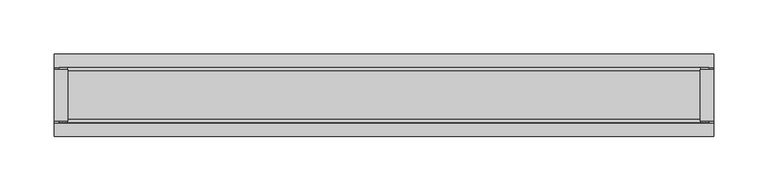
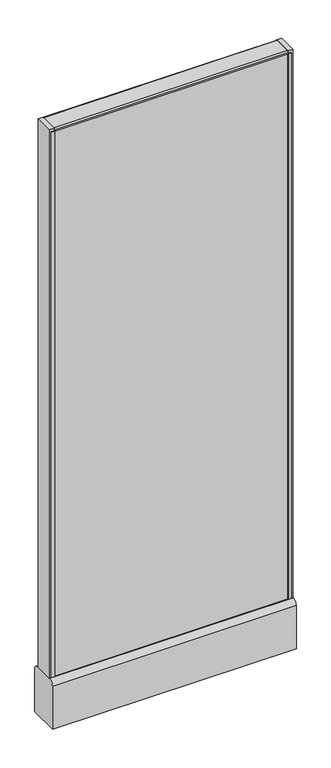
"""IFC4 building model written with IfcOpenShell, lengths in millimetres: furniture geometry."""

import ifcopenshell
import ifcopenshell.guid

model = None  # the IFC model being written
_history = None  # IfcOwnerHistory: only IFC2X3 demands one
_inside = {}  # id of a spatial element -> (the spatial element, [elements in it])
_under = {}  # id of a project, library or spatial element -> (it, [spatial elements below it])
_declared = {}  # id of a project -> (the project, [libraries it declares])
_typed = {}  # id of a type object -> (the type object, [elements of that type])
_made_of = {}  # id of a material, layer set ... -> (it, [elements and type objects made of it])


def new_model(schema):
    """Start an empty IFC model of exactly this schema.

    Asked for "IFC4X3", IfcOpenShell would pick the latest addendum, in which some entities
    have other attributes; the version numbers below select the first issue.
    IFC2X3 requires an IfcOwnerHistory on every rooted entity: one is made here for all.
    """
    global model, _history
    if schema == "IFC4X3":
        model = ifcopenshell.file(schema_version=(4, 3, 0, 0))
    else:
        model = ifcopenshell.file(schema=schema)
    _inside.clear()
    _under.clear()
    _declared.clear()
    _typed.clear()
    _made_of.clear()
    _history = None
    if model.schema == "IFC2X3":
        org = make("IfcOrganization", Name="unknown")
        user = make(
            "IfcPersonAndOrganization",
            ThePerson=make("IfcPerson", FamilyName="unknown"),
            TheOrganization=org,
        )
        app = make(
            "IfcApplication",
            ApplicationDeveloper=org,
            Version="unknown",
            ApplicationFullName="unknown",
            ApplicationIdentifier="unknown",
        )
        _history = make(
            "IfcOwnerHistory",
            OwningUser=user,
            OwningApplication=app,
            ChangeAction="ADDED",
            CreationDate=0,
        )
    return model


def make(cls, **values):
    """One entity of the class cls with the attributes given. An attribute that is None is left unset."""
    return model.create_entity(
        cls, **{name: value for name, value in values.items() if value is not None}
    )


def rooted(cls, **values):
    """An entity with a GlobalId (a new one), such as an element, a storey or a relation."""
    return make(cls, GlobalId=ifcopenshell.guid.new(), OwnerHistory=_history, **values)


def si_unit(unit_type, name, prefix=None):
    """IfcSIUnit, for example si_unit("LENGTHUNIT", "METRE", prefix="MILLI")."""
    return make("IfcSIUnit", UnitType=unit_type, Prefix=prefix, Name=name)


def assignment(units):
    """IfcUnitAssignment: the units of a project."""
    return None if units is None else make("IfcUnitAssignment", Units=units)


def point(xyz):
    """IfcCartesianPoint."""
    return None if xyz is None else make("IfcCartesianPoint", Coordinates=xyz)


def direction(xyz):
    """IfcDirection."""
    return None if xyz is None else make("IfcDirection", DirectionRatios=xyz)


def frame(location, z_axis=None, x_axis=None):
    """IfcAxis2Placement3D, a coordinate frame: its origin and axes. An axis left out is left unset."""
    return make(
        "IfcAxis2Placement3D",
        Location=point(location),
        Axis=direction(z_axis),
        RefDirection=direction(x_axis),
    )


def frame_2d(location, x_axis=None):
    """IfcAxis2Placement2D, a coordinate frame in the plane: its origin and x axis."""
    return make(
        "IfcAxis2Placement2D", Location=point(location), RefDirection=direction(x_axis)
    )


def origin():
    """The frame at (0, 0, 0) with its axes left unset."""
    return frame((0.0, 0.0, 0.0))


def place(relative_to, where):
    """IfcLocalPlacement: puts the frame where relative to a parent placement (None: the world)."""
    return make(
        "IfcLocalPlacement", PlacementRelTo=relative_to, RelativePlacement=where
    )


def context(
    kind, dimensions, precision=None, world=None, true_north=None, identifier=None
):
    """IfcGeometricRepresentationContext, for example the 3D "Model" context."""
    return make(
        "IfcGeometricRepresentationContext",
        ContextIdentifier=identifier,
        ContextType=kind,
        CoordinateSpaceDimension=dimensions,
        Precision=precision,
        WorldCoordinateSystem=world,
        TrueNorth=true_north,
    )


def project(units=None, contexts=None):
    """IfcProject with its units and contexts."""
    return rooted(
        "IfcProject",
        Name="project",
        RepresentationContexts=contexts,
        UnitsInContext=assignment(units),
    )


def spatial(cls, under=None, at=None, **own):
    """A site, building, storey or space (cls), placed at a placement, below another one or the project."""
    s = rooted(cls, ObjectPlacement=at, **own)
    if under is not None:
        _under.setdefault(under.id(), (under, []))[1].append(s)
    return s


def polyline(points):
    """IfcPolyline through the points."""
    return make("IfcPolyline", Points=[point(p) for p in points])


def circle_curve(where, radius):
    """IfcCircle in the frame where."""
    return make("IfcCircle", Position=where, Radius=radius)


def trimmed(basis, trim1, trim2, sense, master):
    """IfcTrimmedCurve: the piece of a basis curve between two trims."""
    return make(
        "IfcTrimmedCurve",
        BasisCurve=basis,
        Trim1=trim1,
        Trim2=trim2,
        SenseAgreement=sense,
        MasterRepresentation=master,
    )


def segment(curve, same_sense, transition):
    """IfcCompositeCurveSegment."""
    return make(
        "IfcCompositeCurveSegment",
        Transition=transition,
        SameSense=same_sense,
        ParentCurve=curve,
    )


def composite_curve(segments, self_intersect=None):
    """IfcCompositeCurve: segments joined end to end."""
    return make("IfcCompositeCurve", Segments=segments, SelfIntersect=self_intersect)


def outline(outer, holes=None, kind="AREA"):
    """IfcArbitraryClosedProfileDef: a profile drawn as a closed curve; with holes, ...WithVoids."""
    if holes is None:
        return make("IfcArbitraryClosedProfileDef", ProfileType=kind, OuterCurve=outer)
    return make(
        "IfcArbitraryProfileDefWithVoids",
        ProfileType=kind,
        OuterCurve=outer,
        InnerCurves=holes,
    )


def extrude(swept, where, along, depth):
    """IfcExtrudedAreaSolid: the profile swept, set in the frame where, extruded along a direction by depth."""
    return make(
        "IfcExtrudedAreaSolid",
        SweptArea=swept,
        Position=where,
        ExtrudedDirection=direction(along),
        Depth=depth,
    )


def shape(context_of_items, identifier, shape_type, items):
    """IfcShapeRepresentation: the items that make up one representation, for example the "Body"."""
    return make(
        "IfcShapeRepresentation",
        ContextOfItems=context_of_items,
        RepresentationIdentifier=identifier,
        RepresentationType=shape_type,
        Items=items,
    )


def source(mapping_origin, context_of_items, identifier, shape_type, items):
    """IfcRepresentationMap: a shape defined once, which mapped items show again and again."""
    return make(
        "IfcRepresentationMap",
        MappingOrigin=mapping_origin,
        MappedRepresentation=shape(context_of_items, identifier, shape_type, items),
    )


def transform(
    local_origin,
    x_axis=None,
    y_axis=None,
    z_axis=None,
    scale=None,
    scale2=None,
    scale3=None,
    uniform=True,
):
    """IfcCartesianTransformationOperator3D, or its non-uniform kind. x_axis, y_axis, z_axis: its Axis1, 2, 3."""
    if uniform:
        return make(
            "IfcCartesianTransformationOperator3D",
            Axis1=direction(x_axis),
            Axis2=direction(y_axis),
            LocalOrigin=point(local_origin),
            Scale=scale,
            Axis3=direction(z_axis),
        )
    return make(
        "IfcCartesianTransformationOperator3DnonUniform",
        Axis1=direction(x_axis),
        Axis2=direction(y_axis),
        LocalOrigin=point(local_origin),
        Scale=scale,
        Axis3=direction(z_axis),
        Scale2=scale2,
        Scale3=scale3,
    )


def mapped(mapping_source, mapping_target):
    """IfcMappedItem: shows the shape of a source again, moved by a transform."""
    return make(
        "IfcMappedItem", MappingSource=mapping_source, MappingTarget=mapping_target
    )


def made_of(thing, what):
    """Note that an element or type object is made of a material, layer set ...; save() writes the relation."""
    if what is not None:
        _made_of.setdefault(what.id(), (what, []))[1].append(thing)
    return thing


def element(
    cls,
    number,
    at=None,
    inside=None,
    cuts=None,
    type_object=None,
    material=None,
    context=None,
    identifier="Body",
    shape_type=None,
    held_by="IfcProductDefinitionShape",
    body=None,
    shapes=None,
    **own,
):
    """One element of the class cls, such as IfcWall. Its Tag is "e" and its number.

    at: its placement. inside: the storey or other place that contains it. cuts: it is an
    opening in that element (IfcRelVoidsElement). A single representation is given by context,
    identifier, shape_type and body (its items); several are given by shapes. held_by: the class
    of the entity that holds the representations. save() writes the other relations.
    """
    e = rooted(cls, Tag="e%d" % number, ObjectPlacement=at, **own)
    if body is not None:
        shapes = [shape(context, identifier, shape_type, body)]
    if shapes is not None:
        e.Representation = make(held_by, Representations=shapes)
    if inside is not None:
        _inside.setdefault(inside.id(), (inside, []))[1].append(e)
    if cuts is not None:
        rooted(
            "IfcRelVoidsElement", RelatingBuildingElement=cuts, RelatedOpeningElement=e
        )
    if type_object is not None:
        _typed.setdefault(type_object.id(), (type_object, []))[1].append(e)
    return made_of(e, material)


def aggregate(whole, parts):
    """IfcRelAggregates: a whole, such as a stair, and the parts it consists of."""
    return rooted("IfcRelAggregates", RelatingObject=whole, RelatedObjects=parts)


def save(model, path):
    """Write the relations noted so far, then the file.

    IfcRelAggregates (storeys below a building ...), IfcRelContainedInSpatialStructure (elements
    in a storey), IfcRelDefinesByType, IfcRelAssociatesMaterial and IfcRelDeclares: one each for
    every whole, place, type object, material and project.
    """
    for whole, parts in _under.values():
        aggregate(whole, parts)
    for where, things in _inside.values():
        rooted(
            "IfcRelContainedInSpatialStructure",
            RelatedElements=things,
            RelatingStructure=where,
        )
    for kind, things in _typed.values():
        rooted("IfcRelDefinesByType", RelatedObjects=things, RelatingType=kind)
    for what, things in _made_of.values():
        rooted("IfcRelAssociatesMaterial", RelatedObjects=things, RelatingMaterial=what)
    for by, libraries in _declared.values():
        rooted("IfcRelDeclares", RelatingContext=by, RelatedDefinitions=libraries)
    model.write(path)


def plane_surface(at):
    """IfcPlane: the flat surface through the origin of the frame at, square to its z axis."""
    return make("IfcPlane", Position=at)


def cylinder_surface(at, radius):
    """IfcCylindricalSurface: all points at the distance radius from the z axis of the frame at."""
    return make("IfcCylindricalSurface", Position=at, Radius=radius)


def advanced_brep(points, edges, surfaces, faces):
    """IfcAdvancedBrep: a solid bounded by faces that lie on surfaces and meet in shared edges.

    An edge is (start, end): straight between two places in points (the first is 0);
    or (start, end, curve); or (start, end, curve, False) where it runs against its curve.
    A face is (place in surfaces, loops), or (place, loops, False) where it looks against
    its surface's normal. A loop lists edges by number (the first is 1), with a minus sign
    where the edge is run from its end to its start. The first loop is the outer one.
    """
    corners = [point(p) for p in points]
    vertices = [make("IfcVertexPoint", VertexGeometry=c) for c in corners]
    made = []
    for start, end, *more in edges:
        made.append(
            make(
                "IfcEdgeCurve",
                EdgeStart=vertices[start],
                EdgeEnd=vertices[end],
                EdgeGeometry=more[0] if more else make("IfcPolyline", Points=[corners[start], corners[end]]),
                SameSense=more[1] if len(more) > 1 else True,
            )
        )
    hull = []
    for where, loops, *sense in faces:
        bounds = []
        for j, loop in enumerate(loops):
            ring = [make("IfcOrientedEdge", EdgeElement=made[abs(k) - 1], Orientation=k > 0) for k in loop]
            bounds.append(
                make(
                    "IfcFaceOuterBound" if j == 0 else "IfcFaceBound",
                    Bound=make("IfcEdgeLoop", EdgeList=ring),
                    Orientation=True,
                )
            )
        hull.append(make("IfcAdvancedFace", Bounds=bounds, FaceSurface=surfaces[where], SameSense=sense[0] if sense else True))
    return make("IfcAdvancedBrep", Outer=make("IfcClosedShell", CfsFaces=hull))


def furniture_0882e81d(model_context):
    return source(origin(), model_context, "Body", "SolidModel", [
        advanced_brep(
        [(247.65, 0.0, 0.0), (273.05, 0.0, 0.0), (260.35, 0.0, 0.0), (247.65, 0.0, 4.7625), (273.05, 0.0, 4.7625), (254.0, 0.0, 4.7625), (266.7, 0.0, 4.7625), (254.0, 0.0, 111.125), (266.7, 0.0, 111.125), (260.35, 0.0, 111.125)],
        [
            (0, 1, circle_curve(frame((260.35, 0.0, 0.0), z_axis=(0.0, 0.0, -1.0), x_axis=(1.0, 0.0, 0.0)), 12.7)),
            (1, 2),
            (2, 0),
            (1, 0, circle_curve(frame((260.35, 0.0, 0.0), z_axis=(0.0, 0.0, -1.0), x_axis=(1.0, 0.0, 0.0)), 12.7)),
            (3, 4, circle_curve(frame((260.35, 0.0, 4.7625), z_axis=(0.0, 0.0, -1.0), x_axis=(1.0, 0.0, 0.0)), 12.7)),
            (4, 1),
            (0, 3),
            (4, 3, circle_curve(frame((260.35, 0.0, 4.7625), z_axis=(0.0, 0.0, -1.0), x_axis=(1.0, 0.0, 0.0)), 12.7)),
            (5, 6, circle_curve(frame((260.35, 0.0, 4.7625), z_axis=(0.0, 0.0, -1.0), x_axis=(1.0, 0.0, 0.0)), 6.35)),
            (6, 4),
            (3, 5),
            (6, 5, circle_curve(frame((260.35, 0.0, 4.7625), z_axis=(0.0, 0.0, -1.0), x_axis=(1.0, 0.0, 0.0)), 6.35)),
            (7, 8, circle_curve(frame((260.35, 0.0, 111.125), z_axis=(0.0, 0.0, -1.0), x_axis=(1.0, 0.0, 0.0)), 6.35)),
            (8, 6),
            (5, 7),
            (8, 7, circle_curve(frame((260.35, 0.0, 111.125), z_axis=(0.0, 0.0, -1.0), x_axis=(1.0, 0.0, 0.0)), 6.35)),
            (9, 8),
            (7, 9),
        ],
        [
            plane_surface(frame((260.35, 0.0, 0.0), z_axis=(0.0, 0.0, -1.0), x_axis=(1.0, 0.0, 0.0))),
            cylinder_surface(frame((260.35, 0.0, 114.882153), z_axis=(0.0, 0.0, 1.0), x_axis=(1.0, 0.0, 0.0)), 12.7),
            plane_surface(frame((260.35, 0.0, 4.7625), z_axis=(0.0, 0.0, 1.0), x_axis=(1.0, 0.0, 0.0))),
            cylinder_surface(frame((260.35, 0.0, 114.882153), z_axis=(0.0, 0.0, 1.0), x_axis=(1.0, 0.0, 0.0)), 6.35),
            plane_surface(frame((260.35, 0.0, 111.125), z_axis=(0.0, 0.0, 1.0), x_axis=(1.0, 0.0, 0.0))),
        ],
        [
            (0, [[1, 2, 3]]),
            (0, [[4, -3, -2]]),
            (1, [[5, 6, -1, 7]]),
            (1, [[8, -7, -4, -6]]),
            (2, [[9, 10, -5, 11]]),
            (2, [[12, -11, -8, -10]]),
            (3, [[13, 14, -9, 15]]),
            (3, [[16, -15, -12, -14]]),
            (4, [[17, -13, 18]]),
            (4, [[-18, -16, -17]]),
        ],
    ),
        advanced_brep(
        [(-273.05, 0.0, 4.7625), (-247.65, 0.0, 4.7625), (-247.65, 0.0, 0.0), (-273.05, 0.0, 0.0), (-266.7, 0.0, 4.7625), (-254.0, 0.0, 4.7625), (-266.7, 0.0, 111.125), (-254.0, 0.0, 111.125), (-260.35, 0.0, 111.125), (-260.35, 0.0, 0.0)],
        [
            (0, 1, circle_curve(frame((-260.35, 0.0, 4.7625), z_axis=(0.0, 0.0, -1.0), x_axis=(1.0, 0.0, 0.0)), 12.7)),
            (1, 2),
            (2, 3, circle_curve(frame((-260.35, 0.0, 0.0), z_axis=(0.0, 0.0, 1.0), x_axis=(1.0, 0.0, 0.0)), 12.7)),
            (3, 0),
            (1, 0, circle_curve(frame((-260.35, 0.0, 4.7625), z_axis=(0.0, 0.0, -1.0), x_axis=(1.0, 0.0, 0.0)), 12.7)),
            (3, 2, circle_curve(frame((-260.35, 0.0, 0.0), z_axis=(0.0, 0.0, 1.0), x_axis=(1.0, 0.0, 0.0)), 12.7)),
            (4, 5, circle_curve(frame((-260.35, 0.0, 4.7625), z_axis=(0.0, 0.0, -1.0), x_axis=(1.0, 0.0, 0.0)), 6.35)),
            (5, 1),
            (0, 4),
            (5, 4, circle_curve(frame((-260.35, 0.0, 4.7625), z_axis=(0.0, 0.0, -1.0), x_axis=(1.0, 0.0, 0.0)), 6.35)),
            (6, 7, circle_curve(frame((-260.35, 0.0, 111.125), z_axis=(0.0, 0.0, -1.0), x_axis=(1.0, 0.0, 0.0)), 6.35)),
            (7, 5),
            (4, 6),
            (7, 6, circle_curve(frame((-260.35, 0.0, 111.125), z_axis=(0.0, 0.0, -1.0), x_axis=(1.0, 0.0, 0.0)), 6.35)),
            (8, 7),
            (6, 8),
            (2, 9),
            (9, 3),
        ],
        [
            cylinder_surface(frame((-260.35, 0.0, 123.825), z_axis=(0.0, 0.0, 1.0), x_axis=(1.0, 0.0, 0.0)), 12.7),
            plane_surface(frame((-260.35, 0.0, 4.7625), z_axis=(0.0, 0.0, 1.0), x_axis=(1.0, 0.0, 0.0))),
            cylinder_surface(frame((-260.35, 0.0, 123.825), z_axis=(0.0, 0.0, 1.0), x_axis=(1.0, 0.0, 0.0)), 6.35),
            plane_surface(frame((-260.35, 0.0, 111.125), z_axis=(0.0, 0.0, 1.0), x_axis=(1.0, 0.0, 0.0))),
            plane_surface(frame((-260.35, 0.0, 0.0), z_axis=(0.0, 0.0, -1.0), x_axis=(1.0, 0.0, 0.0))),
        ],
        [
            (0, [[1, 2, 3, 4]]),
            (0, [[5, -4, 6, -2]]),
            (1, [[7, 8, -1, 9]]),
            (1, [[10, -9, -5, -8]]),
            (2, [[11, 12, -7, 13]]),
            (2, [[14, -13, -10, -12]]),
            (3, [[15, -11, 16]]),
            (3, [[-16, -14, -15]]),
            (4, [[-3, 17, 18]]),
            (4, [[-6, -18, -17]]),
        ],
    ),
        extrude(outline(polyline([(-304.8, 23.8125), (-292.1, 23.8125), (-292.1, -23.8125), (-304.8, -23.8125), (-304.8, 23.8125)])), frame((0.0, 0.0, 136.525), z_axis=(0.0, 0.0, 1.0), x_axis=(1.0, 0.0, 0.0)), (0.0, 0.0, 1.0), 1447.8),
        extrude(outline(polyline([(292.1, -23.8125), (292.1, 23.8125), (304.8, 23.8125), (304.8, -23.8125), (292.1, -23.8125)])), frame((0.0, 0.0, 136.525), z_axis=(0.0, 0.0, 1.0), x_axis=(1.0, 0.0, 0.0)), (0.0, 0.0, 1.0), 1447.8),
        extrude(outline(polyline([(-292.1, 25.4), (-292.1, 23.8125), (-300.0375, 23.8125), (-300.0375, 25.4), (-292.1, 25.4)])), frame((0.0, 0.0, 136.525), z_axis=(0.0, 0.0, 1.0), x_axis=(1.0, 0.0, 0.0)), (0.0, 0.0, 1.0), 1441.45),
        extrude(outline(polyline([(-292.1, -25.4), (-300.0375, -25.4), (-300.0375, -23.8125), (-292.1, -23.8125), (-292.1, -25.4)])), frame((0.0, 0.0, 136.525), z_axis=(0.0, 0.0, 1.0), x_axis=(1.0, 0.0, 0.0)), (0.0, 0.0, 1.0), 1441.45),
        extrude(outline(polyline([(300.0375, 23.8125), (292.1, 23.8125), (292.1, 25.4), (300.0375, 25.4), (300.0375, 23.8125)])), frame((0.0, 0.0, 136.525), z_axis=(0.0, 0.0, 1.0), x_axis=(1.0, 0.0, 0.0)), (0.0, 0.0, 1.0), 1441.45),
        extrude(outline(polyline([(292.1, -25.4), (292.1, -23.8125), (300.0375, -23.8125), (300.0375, -25.4), (292.1, -25.4)])), frame((0.0, 0.0, 136.525), z_axis=(0.0, 0.0, 1.0), x_axis=(1.0, 0.0, 0.0)), (0.0, 0.0, 1.0), 1441.45),
        extrude(outline(composite_curve([segment(trimmed(circle_curve(frame_2d((22.225, 1581.15)), 3.175), [point((22.225, 1584.325))], [point((25.4, 1581.15))], False, "CARTESIAN"), True, "CONTINUOUS"), segment(polyline([(25.4, 1581.15), (25.4, 1577.975), (-25.4, 1577.975), (-25.4, 1581.15)]), True, "CONTINUOUS"), segment(trimmed(circle_curve(frame_2d((-22.225, 1581.15)), 3.175), [point((-25.4, 1581.15))], [point((-22.225, 1584.325))], False, "CARTESIAN"), True, "CONTINUOUS"), segment(polyline([(-22.225, 1584.325), (22.225, 1584.325)]), True, "CONTINUOUS")], self_intersect=False)), frame((-292.1, 0.0, 0.0), z_axis=(1.0, 0.0, 0.0), x_axis=(0.0, 1.0, 0.0)), (0.0, 0.0, 1.0), 584.2),
        extrude(outline(composite_curve([segment(trimmed(circle_curve(frame_2d((25.4, 123.825)), 12.7), [point((25.4, 136.525))], [point((38.1, 123.825))], False, "CARTESIAN"), True, "CONTINUOUS"), segment(polyline([(38.1, 123.825), (38.1, 9.525), (-38.1, 9.525), (-38.1, 123.825)]), True, "CONTINUOUS"), segment(trimmed(circle_curve(frame_2d((-25.4, 123.825)), 12.7), [point((-38.1, 123.825))], [point((-25.4, 136.525))], False, "CARTESIAN"), True, "CONTINUOUS"), segment(polyline([(-25.4, 136.525), (25.4, 136.525)]), True, "CONTINUOUS")], self_intersect=False)), frame((-304.8, 0.0, 0.0), z_axis=(1.0, 0.0, 0.0), x_axis=(0.0, 1.0, 0.0)), (0.0, 0.0, 1.0), 609.6),
        extrude(outline(polyline([(292.1, 23.8125), (292.1, -23.8125), (-292.1, -23.8125), (-292.1, 23.8125), (292.1, 23.8125)])), frame((0.0, 0.0, 136.525), z_axis=(0.0, 0.0, 1.0), x_axis=(1.0, 0.0, 0.0)), (0.0, 0.0, 1.0), 1441.45),
    ])


if __name__ == "__main__":
    model = new_model("IFC4")
    model_context = context("Model", 3, world=origin())
    ifc_project = project(units=[si_unit("LENGTHUNIT", "METRE", prefix="MILLI")], contexts=[model_context])
    site = spatial("IfcSite", under=ifc_project)
    building = spatial("IfcBuilding", under=site)
    placement = place(None, origin())
    furniture_shape = furniture_0882e81d(model_context)
    element("IfcFurniture", 1, ObjectType="HermanMiller_ActionOffice_A1110_Hard-SurfacedPanelStandardBase : 62\"H x 24\"W-N", at=placement, inside=building, context=model_context, shape_type="MappedRepresentation", body=[
        mapped(furniture_shape, transform((0.0, 0.0, 0.0), x_axis=(1.0, 0.0, 0.0), y_axis=(0.0, 1.0, 0.0), z_axis=(0.0, 0.0, 1.0))),
    ])
    save(model, "model.ifc")
